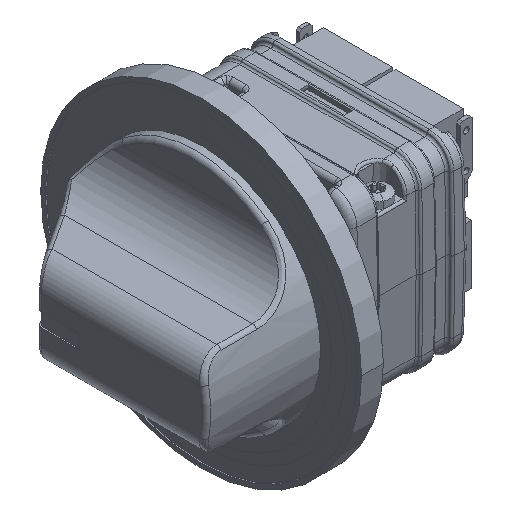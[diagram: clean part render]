
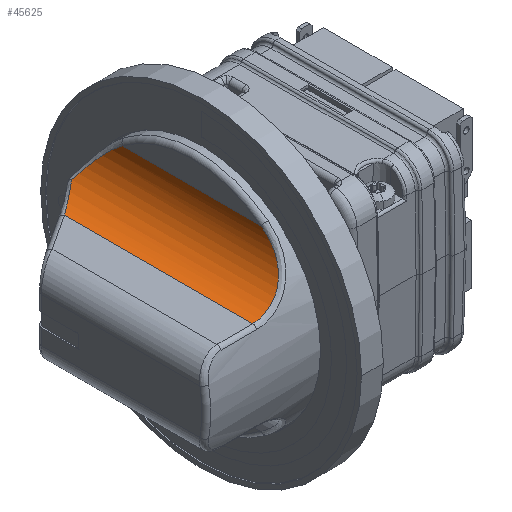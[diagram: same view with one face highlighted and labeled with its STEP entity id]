
A CAD part, isometric view. The second image highlights one B-rep face of the part: STEP entity #45625.
In plain terms, the highlighted cylindrical face has radius 10 mm (diameter 20 mm), a partial arc.
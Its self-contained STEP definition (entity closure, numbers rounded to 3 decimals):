
#717 = CARTESIAN_POINT ( 'NONE',  ( -11.233, -20.864, 14.832 ) ) ;
#1047 = CARTESIAN_POINT ( 'NONE',  ( -14.066, -22.795, 11.798 ) ) ;
#1204 = DIRECTION ( 'NONE',  ( 0., 1., 0. ) ) ;
#1208 = CARTESIAN_POINT ( 'NONE',  ( -9.8, -15.495, 20. ) ) ;
#1354 = FACE_OUTER_BOUND ( 'NONE', #45965, .T. ) ;
#3517 = CARTESIAN_POINT ( 'NONE',  ( -10.35, 19.291, 16.707 ) ) ;
#3675 = CARTESIAN_POINT ( 'NONE',  ( -13.585, 22.606, 12.151 ) ) ;
#4027 = VERTEX_POINT ( 'NONE', #23870 ) ;
#4282 = EDGE_CURVE ( 'NONE', #14707, #43493, #9350, .T. ) ;
#4308 = EDGE_CURVE ( 'NONE', #15381, #43493, #33494, .T. ) ;
#4412 = CARTESIAN_POINT ( 'NONE',  ( -15.022, -23.097, 11.207 ) ) ;
#4895 = CARTESIAN_POINT ( 'NONE',  ( -10.43, -19.483, 16.495 ) ) ;
#6190 = VERTEX_POINT ( 'NONE', #21479 ) ;
#6710 = ORIENTED_EDGE ( 'NONE', *, *, #4282, .F. ) ;
#6900 = CARTESIAN_POINT ( 'NONE',  ( -11.674, 21.357, 14.155 ) ) ;
#7068 = CARTESIAN_POINT ( 'NONE',  ( -10.802, 20.246, 15.619 ) ) ;
#7546 = CARTESIAN_POINT ( 'NONE',  ( -9.8, 16.328, 19.413 ) ) ;
#8146 = CARTESIAN_POINT ( 'NONE',  ( -11.59, -21.266, 14.282 ) ) ;
#8457 = CARTESIAN_POINT ( 'NONE',  ( -9.83, -16.733, 19.084 ) ) ;
#9350 = LINE ( 'NONE', #13587, #34197 ) ;
#10253 = B_SPLINE_CURVE_WITH_KNOTS ( 'NONE', 3,
 ( #15436, #30769, #12357, #37891, #15766, #27013, #19178, #4412, #45677, #1047, #34169, #23145, #30598, #45354, #8146, #717, #26850, #26542, #30289, #4895, #41604, #38037, #12190, #8457, #37581, #1208 ),
 .UNSPECIFIED., .F., .F.,
 ( 4, 2, 2, 2, 2, 2, 2, 2, 2, 2, 2, 2, 4 ),
 ( 0., 0.002, 0.003, 0.005, 0.006, 0.007, 0.009, 0.01, 0.012, 0.013, 0.014, 0.016, 0.019 ),
 .UNSPECIFIED. ) ;
#10643 = CARTESIAN_POINT ( 'NONE',  ( -12.534, 22.043, 13.113 ) ) ;
#11123 = CARTESIAN_POINT ( 'NONE',  ( -19.8, 18.584, 10. ) ) ;
#11619 = ORIENTED_EDGE ( 'NONE', *, *, #45190, .T. ) ;
#12190 = CARTESIAN_POINT ( 'NONE',  ( -9.97, -17.89, 18.097 ) ) ;
#12287 = ORIENTED_EDGE ( 'NONE', *, *, #14755, .T. ) ;
#12357 = CARTESIAN_POINT ( 'NONE',  ( -18.255, -23.608, 10.09 ) ) ;
#13547 = DIRECTION ( 'NONE',  ( 0., 1., 0. ) ) ;
#13587 = CARTESIAN_POINT ( 'NONE',  ( -19.8, -100., 10. ) ) ;
#14687 = CARTESIAN_POINT ( 'NONE',  ( -13.215, 22.433, 12.459 ) ) ;
#14707 = VERTEX_POINT ( 'NONE', #32301 ) ;
#14755 = EDGE_CURVE ( 'NONE', #6190, #15381, #30043, .T. ) ;
#14843 = CARTESIAN_POINT ( 'NONE',  ( -10.046, 18.235, 17.769 ) ) ;
#15381 = VERTEX_POINT ( 'NONE', #24543 ) ;
#15436 = CARTESIAN_POINT ( 'NONE',  ( -19.8, -23.645, 10. ) ) ;
#15766 = CARTESIAN_POINT ( 'NONE',  ( -16.757, -23.444, 10.467 ) ) ;
#19178 = CARTESIAN_POINT ( 'NONE',  ( -15.695, -23.257, 10.874 ) ) ;
#19179 = LINE ( 'NONE', #24186, #46967 ) ;
#20852 = CARTESIAN_POINT ( 'NONE',  ( -19.8, 18.584, 10. ) ) ;
#21479 = CARTESIAN_POINT ( 'NONE',  ( -9.8, 15.495, 20. ) ) ;
#22392 = CARTESIAN_POINT ( 'NONE',  ( -9.851, 17.118, 18.781 ) ) ;
#23145 = CARTESIAN_POINT ( 'NONE',  ( -12.927, -22.296, 12.7 ) ) ;
#23639 = DIRECTION ( 'NONE',  ( 1., 0., 0. ) ) ;
#23809 = CARTESIAN_POINT ( 'NONE',  ( -19.8, -100., 20. ) ) ;
#23870 = CARTESIAN_POINT ( 'NONE',  ( -9.8, -15.495, 20. ) ) ;
#23991 = ORIENTED_EDGE ( 'NONE', *, *, #25469, .T. ) ;
#24186 = CARTESIAN_POINT ( 'NONE',  ( -9.8, -100., 20. ) ) ;
#24543 = CARTESIAN_POINT ( 'NONE',  ( -13.982, 22.758, 11.866 ) ) ;
#25469 = EDGE_CURVE ( 'NONE', #14707, #4027, #10253, .T. ) ;
#25474 = CARTESIAN_POINT ( 'NONE',  ( -10.989, 20.543, 15.251 ) ) ;
#25783 = CARTESIAN_POINT ( 'NONE',  ( -10.483, 19.62, 16.347 ) ) ;
#26100 = CARTESIAN_POINT ( 'NONE',  ( -10.132, 18.598, 17.418 ) ) ;
#26542 = CARTESIAN_POINT ( 'NONE',  ( -10.784, -20.206, 15.663 ) ) ;
#26850 = CARTESIAN_POINT ( 'NONE',  ( -11.072, -20.652, 15.109 ) ) ;
#27013 = CARTESIAN_POINT ( 'NONE',  ( -16.042, -23.326, 10.725 ) ) ;
#28406 = CARTESIAN_POINT ( 'NONE',  ( -15.693, 21.53, 10.643 ) ) ;
#29050 = CARTESIAN_POINT ( 'NONE',  ( -11.427, 21.101, 14.516 ) ) ;
#30043 = B_SPLINE_CURVE_WITH_KNOTS ( 'NONE', 3,
 ( #47850, #7546, #22392, #14843, #26100, #3517, #25783, #7068, #25474, #29050, #6900, #32752, #10643, #14687, #3675, #36535 ),
 .UNSPECIFIED., .F., .F.,
 ( 4, 2, 2, 2, 2, 2, 2, 4 ),
 ( 0., 0.003, 0.005, 0.006, 0.008, 0.009, 0.011, 0.012 ),
 .UNSPECIFIED. ) ;
#30289 = CARTESIAN_POINT ( 'NONE',  ( -10.656, -19.973, 15.941 ) ) ;
#30598 = CARTESIAN_POINT ( 'NONE',  ( -12.434, -21.994, 13.202 ) ) ;
#30769 = CARTESIAN_POINT ( 'NONE',  ( -19.021, -23.645, 10. ) ) ;
#32301 = CARTESIAN_POINT ( 'NONE',  ( -19.8, -23.645, 10. ) ) ;
#32752 = CARTESIAN_POINT ( 'NONE',  ( -12.227, 21.828, 13.454 ) ) ;
#33494 =( BOUNDED_CURVE ( )  B_SPLINE_CURVE ( 3, ( #35739, #28406, #39133, #20852 ),
 .UNSPECIFIED., .F., .F. ) 
 B_SPLINE_CURVE_WITH_KNOTS ( ( 4, 4 ),
 ( 0.95, 1.571 ),
 .UNSPECIFIED. ) 
 CURVE ( )  GEOMETRIC_REPRESENTATION_ITEM ( )  RATIONAL_B_SPLINE_CURVE ( ( 1., 0.968, 0.968, 1. ) ) 
 REPRESENTATION_ITEM ( '' )  );
#34169 = CARTESIAN_POINT ( 'NONE',  ( -13.768, -22.679, 12.016 ) ) ;
#34197 = VECTOR ( 'NONE', #35908, 1000. ) ;
#35739 = CARTESIAN_POINT ( 'NONE',  ( -13.982, 22.758, 11.866 ) ) ;
#35908 = DIRECTION ( 'NONE',  ( 0., 1., 0. ) ) ;
#36535 = CARTESIAN_POINT ( 'NONE',  ( -13.982, 22.758, 11.866 ) ) ;
#37581 = CARTESIAN_POINT ( 'NONE',  ( -9.8, -16.127, 19.555 ) ) ;
#37891 = CARTESIAN_POINT ( 'NONE',  ( -17.128, -23.493, 10.356 ) ) ;
#38037 = CARTESIAN_POINT ( 'NONE',  ( -10.081, -18.442, 17.58 ) ) ;
#39133 = CARTESIAN_POINT ( 'NONE',  ( -17.696, 20.093, 10. ) ) ;
#39758 = ORIENTED_EDGE ( 'NONE', *, *, #4308, .T. ) ;
#41604 = CARTESIAN_POINT ( 'NONE',  ( -10.331, -19.227, 16.772 ) ) ;
#43493 = VERTEX_POINT ( 'NONE', #11123 ) ;
#44804 = AXIS2_PLACEMENT_3D ( 'NONE', #23809, #1204, #23639 ) ;
#45190 = EDGE_CURVE ( 'NONE', #4027, #6190, #19179, .T. ) ;
#45208 = CYLINDRICAL_SURFACE ( 'NONE', #44804, 10. ) ;
#45354 = CARTESIAN_POINT ( 'NONE',  ( -11.787, -21.458, 14.007 ) ) ;
#45625 = ADVANCED_FACE ( 'NONE', ( #1354 ), #45208, .F. ) ;
#45677 = CARTESIAN_POINT ( 'NONE',  ( -14.696, -23.005, 11.392 ) ) ;
#45965 = EDGE_LOOP ( 'NONE', ( #6710, #23991, #11619, #12287, #39758 ) ) ;
#46967 = VECTOR ( 'NONE', #13547, 1000. ) ;
#47850 = CARTESIAN_POINT ( 'NONE',  ( -9.8, 15.495, 20. ) ) ;
